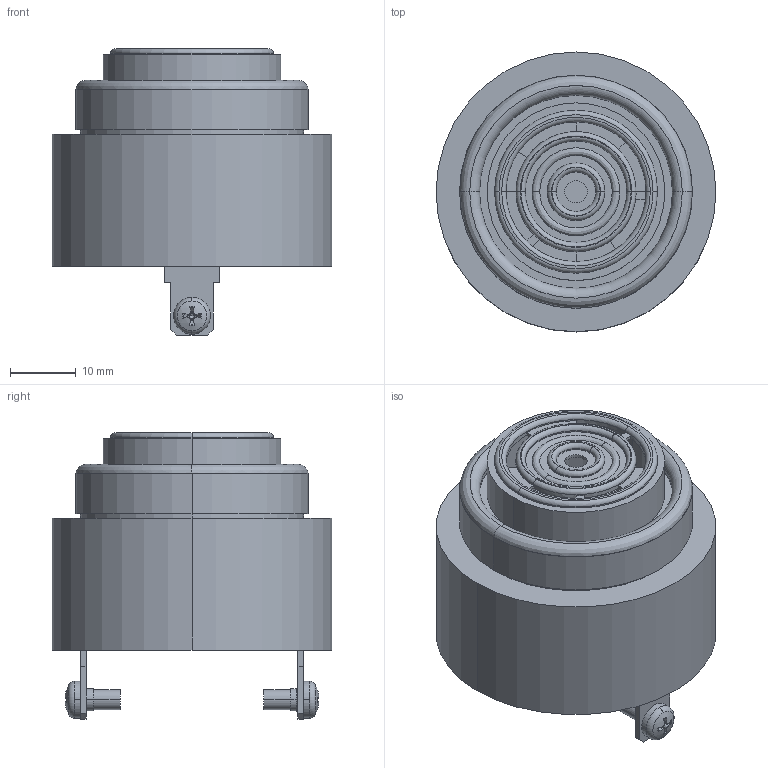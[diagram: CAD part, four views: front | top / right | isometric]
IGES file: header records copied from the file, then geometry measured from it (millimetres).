
Global section: file name: No Iges File Name specified; native system: AutoDesk Inventor R12.0; preprocessor: AutoDesk Inventor Iges Exporter R12.0; date: 20090219.161517; units: millimetre
Bounding box: 42.5 x 42.5 x 43.5 mm (x, y, z)
Volume: 11524.5 mm3; surface area: 18324.3 mm2
Topology: 6 solids, 6 shells, 203 faces, 536 edges, 358 vertices
Faces by surface type: plane 81, cylinder 32, revolution 30, torus 26, bspline 24, cone 8, sphere 2
